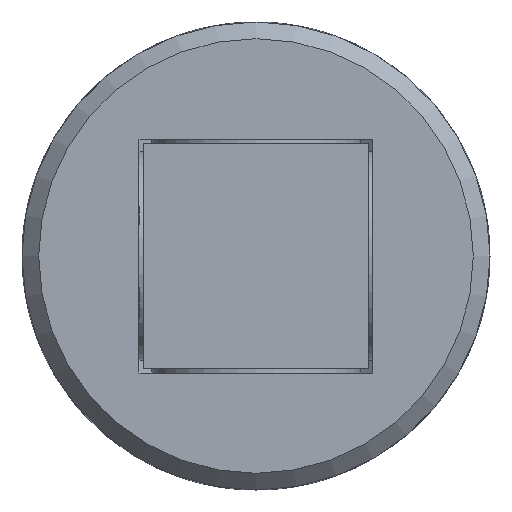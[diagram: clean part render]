
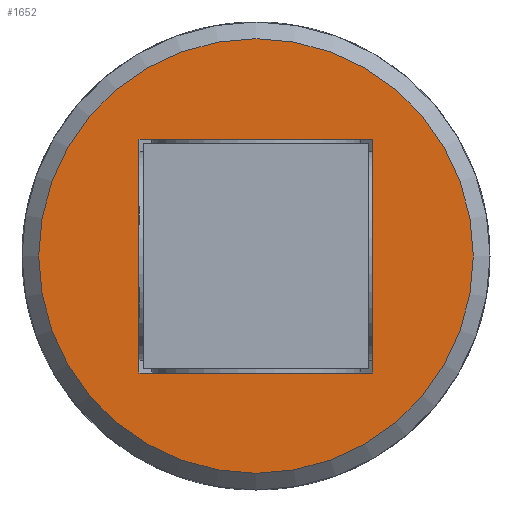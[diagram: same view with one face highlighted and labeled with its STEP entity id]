
A CAD part, front view. The second image highlights one B-rep face of the part: STEP entity #1652.
In plain terms, the highlighted planar face has unit normal (0, -1, 0).
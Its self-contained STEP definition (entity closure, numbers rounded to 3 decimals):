
#112=LINE('',#3098,#176);
#116=LINE('',#3123,#180);
#122=LINE('',#3165,#186);
#125=LINE('',#3187,#189);
#176=VECTOR('',#2139,14.);
#180=VECTOR('',#2147,14.);
#186=VECTOR('',#2155,14.);
#189=VECTOR('',#2162,14.);
#329=PLANE('',#1818);
#377=FACE_BOUND('',#602,.T.);
#463=FACE_OUTER_BOUND('',#601,.T.);
#601=EDGE_LOOP('',(#1439));
#602=EDGE_LOOP('',(#1440,#1441,#1442,#1443));
#690=CIRCLE('',#1816,13.);
#813=VERTEX_POINT('',#3095);
#814=VERTEX_POINT('',#3097);
#820=VERTEX_POINT('',#3122);
#829=VERTEX_POINT('',#3163);
#836=VERTEX_POINT('',#3230);
#1013=EDGE_CURVE('',#814,#813,#112,.T.);
#1020=EDGE_CURVE('',#820,#814,#116,.T.);
#1030=EDGE_CURVE('',#813,#829,#122,.T.);
#1036=EDGE_CURVE('',#829,#820,#125,.T.);
#1047=EDGE_CURVE('',#836,#836,#690,.T.);
#1439=ORIENTED_EDGE('',*,*,#1047,.F.);
#1440=ORIENTED_EDGE('',*,*,#1013,.T.);
#1441=ORIENTED_EDGE('',*,*,#1030,.T.);
#1442=ORIENTED_EDGE('',*,*,#1036,.T.);
#1443=ORIENTED_EDGE('',*,*,#1020,.T.);
#1652=ADVANCED_FACE('',(#463,#377),#329,.F.);
#1816=AXIS2_PLACEMENT_3D('',#3231,#2191,#2192);
#1818=AXIS2_PLACEMENT_3D('',#3407,#2199,#2200);
#2139=DIRECTION('',(0.,0.,-1.));
#2147=DIRECTION('',(1.,0.,0.));
#2155=DIRECTION('',(-1.,0.,0.));
#2162=DIRECTION('',(0.,0.,1.));
#2191=DIRECTION('center_axis',(0.,1.,0.));
#2192=DIRECTION('ref_axis',(1.,0.,0.));
#2199=DIRECTION('center_axis',(0.,1.,0.));
#2200=DIRECTION('ref_axis',(0.,0.,1.));
#3095=CARTESIAN_POINT('',(7.,-36.5,-7.));
#3097=CARTESIAN_POINT('',(7.,-36.5,7.));
#3098=CARTESIAN_POINT('',(7.,-36.5,3.5));
#3122=CARTESIAN_POINT('',(-7.,-36.5,7.));
#3123=CARTESIAN_POINT('',(-3.5,-36.5,7.));
#3163=CARTESIAN_POINT('',(-7.,-36.5,-7.));
#3165=CARTESIAN_POINT('',(3.5,-36.5,-7.));
#3187=CARTESIAN_POINT('',(-7.,-36.5,-3.5));
#3230=CARTESIAN_POINT('',(-13.,-36.5,0.));
#3231=CARTESIAN_POINT('Origin',(0.,-36.5,0.));
#3407=CARTESIAN_POINT('Origin',(0.,-36.5,0.));
